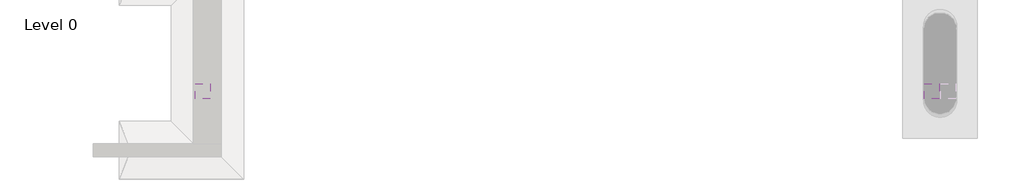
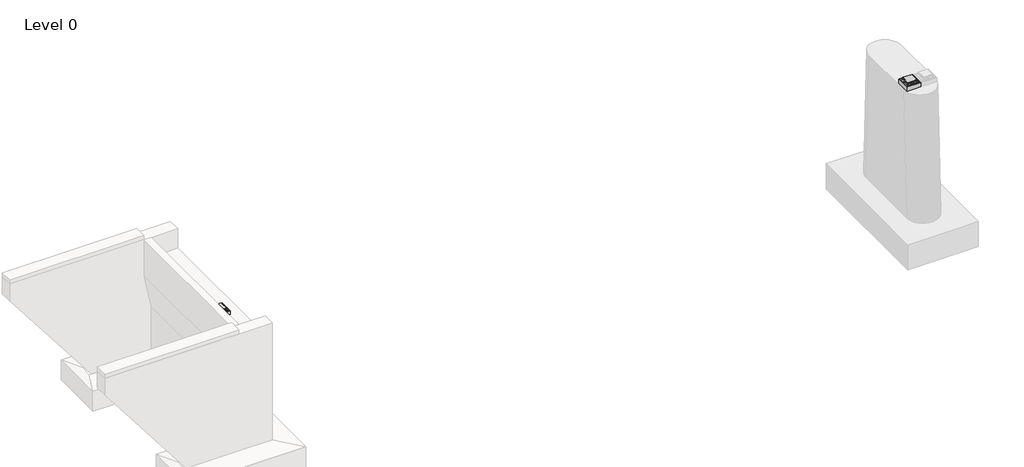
# One storey, part 1 of 4: 2 proxies.
"""IFC4 building model written with IfcOpenShell, lengths in millimetres."""

import ifcopenshell
import ifcopenshell.guid

model = None  # the IFC model being written
_history = None  # IfcOwnerHistory: only IFC2X3 demands one
_inside = {}  # id of a spatial element -> (the spatial element, [elements in it])
_under = {}  # id of a project, library or spatial element -> (it, [spatial elements below it])
_declared = {}  # id of a project -> (the project, [libraries it declares])
_typed = {}  # id of a type object -> (the type object, [elements of that type])
_made_of = {}  # id of a material, layer set ... -> (it, [elements and type objects made of it])


def new_model(schema):
    """Start an empty IFC model of exactly this schema.

    Asked for "IFC4X3", IfcOpenShell would pick the latest addendum, in which some entities
    have other attributes; the version numbers below select the first issue.
    IFC2X3 requires an IfcOwnerHistory on every rooted entity: one is made here for all.
    """
    global model, _history
    if schema == "IFC4X3":
        model = ifcopenshell.file(schema_version=(4, 3, 0, 0))
    else:
        model = ifcopenshell.file(schema=schema)
    _inside.clear()
    _under.clear()
    _declared.clear()
    _typed.clear()
    _made_of.clear()
    _history = None
    if model.schema == "IFC2X3":
        org = make("IfcOrganization", Name="unknown")
        user = make(
            "IfcPersonAndOrganization",
            ThePerson=make("IfcPerson", FamilyName="unknown"),
            TheOrganization=org,
        )
        app = make(
            "IfcApplication",
            ApplicationDeveloper=org,
            Version="unknown",
            ApplicationFullName="unknown",
            ApplicationIdentifier="unknown",
        )
        _history = make(
            "IfcOwnerHistory",
            OwningUser=user,
            OwningApplication=app,
            ChangeAction="ADDED",
            CreationDate=0,
        )
    return model


def make(cls, **values):
    """One entity of the class cls with the attributes given. An attribute that is None is left unset."""
    return model.create_entity(
        cls, **{name: value for name, value in values.items() if value is not None}
    )


def rooted(cls, **values):
    """An entity with a GlobalId (a new one), such as an element, a storey or a relation."""
    return make(cls, GlobalId=ifcopenshell.guid.new(), OwnerHistory=_history, **values)


def si_unit(unit_type, name, prefix=None):
    """IfcSIUnit, for example si_unit("LENGTHUNIT", "METRE", prefix="MILLI")."""
    return make("IfcSIUnit", UnitType=unit_type, Prefix=prefix, Name=name)


def assignment(units):
    """IfcUnitAssignment: the units of a project."""
    return None if units is None else make("IfcUnitAssignment", Units=units)


def point(xyz):
    """IfcCartesianPoint."""
    return None if xyz is None else make("IfcCartesianPoint", Coordinates=xyz)


def direction(xyz):
    """IfcDirection."""
    return None if xyz is None else make("IfcDirection", DirectionRatios=xyz)


def frame(location, z_axis=None, x_axis=None):
    """IfcAxis2Placement3D, a coordinate frame: its origin and axes. An axis left out is left unset."""
    return make(
        "IfcAxis2Placement3D",
        Location=point(location),
        Axis=direction(z_axis),
        RefDirection=direction(x_axis),
    )


def frame_2d(location, x_axis=None):
    """IfcAxis2Placement2D, a coordinate frame in the plane: its origin and x axis."""
    return make(
        "IfcAxis2Placement2D", Location=point(location), RefDirection=direction(x_axis)
    )


def origin():
    """The frame at (0, 0, 0) with its axes left unset."""
    return frame((0.0, 0.0, 0.0))


def place(relative_to, where):
    """IfcLocalPlacement: puts the frame where relative to a parent placement (None: the world)."""
    return make(
        "IfcLocalPlacement", PlacementRelTo=relative_to, RelativePlacement=where
    )


def context(
    kind, dimensions, precision=None, world=None, true_north=None, identifier=None
):
    """IfcGeometricRepresentationContext, for example the 3D "Model" context."""
    return make(
        "IfcGeometricRepresentationContext",
        ContextIdentifier=identifier,
        ContextType=kind,
        CoordinateSpaceDimension=dimensions,
        Precision=precision,
        WorldCoordinateSystem=world,
        TrueNorth=true_north,
    )


def project(units=None, contexts=None):
    """IfcProject with its units and contexts."""
    return rooted(
        "IfcProject",
        Name="project",
        RepresentationContexts=contexts,
        UnitsInContext=assignment(units),
    )


def spatial(cls, under=None, at=None, **own):
    """A site, building, storey or space (cls), placed at a placement, below another one or the project."""
    s = rooted(cls, ObjectPlacement=at, **own)
    if under is not None:
        _under.setdefault(under.id(), (under, []))[1].append(s)
    return s


def polyline(points):
    """IfcPolyline through the points."""
    return make("IfcPolyline", Points=[point(p) for p in points])


def circle_curve(where, radius):
    """IfcCircle in the frame where."""
    return make("IfcCircle", Position=where, Radius=radius)


def ellipse_curve(where, semi_axis1, semi_axis2):
    """IfcEllipse in the frame where."""
    return make(
        "IfcEllipse", Position=where, SemiAxis1=semi_axis1, SemiAxis2=semi_axis2
    )


def trimmed(basis, trim1, trim2, sense, master):
    """IfcTrimmedCurve: the piece of a basis curve between two trims."""
    return make(
        "IfcTrimmedCurve",
        BasisCurve=basis,
        Trim1=trim1,
        Trim2=trim2,
        SenseAgreement=sense,
        MasterRepresentation=master,
    )


def segment(curve, same_sense, transition):
    """IfcCompositeCurveSegment."""
    return make(
        "IfcCompositeCurveSegment",
        Transition=transition,
        SameSense=same_sense,
        ParentCurve=curve,
    )


def composite_curve(segments, self_intersect=None):
    """IfcCompositeCurve: segments joined end to end."""
    return make("IfcCompositeCurve", Segments=segments, SelfIntersect=self_intersect)


def outline(outer, holes=None, kind="AREA"):
    """IfcArbitraryClosedProfileDef: a profile drawn as a closed curve; with holes, ...WithVoids."""
    if holes is None:
        return make("IfcArbitraryClosedProfileDef", ProfileType=kind, OuterCurve=outer)
    return make(
        "IfcArbitraryProfileDefWithVoids",
        ProfileType=kind,
        OuterCurve=outer,
        InnerCurves=holes,
    )


def extrude(swept, where, along, depth):
    """IfcExtrudedAreaSolid: the profile swept, set in the frame where, extruded along a direction by depth."""
    return make(
        "IfcExtrudedAreaSolid",
        SweptArea=swept,
        Position=where,
        ExtrudedDirection=direction(along),
        Depth=depth,
    )


def shape(context_of_items, identifier, shape_type, items):
    """IfcShapeRepresentation: the items that make up one representation, for example the "Body"."""
    return make(
        "IfcShapeRepresentation",
        ContextOfItems=context_of_items,
        RepresentationIdentifier=identifier,
        RepresentationType=shape_type,
        Items=items,
    )


def made_of(thing, what):
    """Note that an element or type object is made of a material, layer set ...; save() writes the relation."""
    if what is not None:
        _made_of.setdefault(what.id(), (what, []))[1].append(thing)
    return thing


def element(
    cls,
    number,
    at=None,
    inside=None,
    cuts=None,
    type_object=None,
    material=None,
    context=None,
    identifier="Body",
    shape_type=None,
    held_by="IfcProductDefinitionShape",
    body=None,
    shapes=None,
    **own,
):
    """One element of the class cls, such as IfcWall. Its Tag is "e" and its number.

    at: its placement. inside: the storey or other place that contains it. cuts: it is an
    opening in that element (IfcRelVoidsElement). A single representation is given by context,
    identifier, shape_type and body (its items); several are given by shapes. held_by: the class
    of the entity that holds the representations. save() writes the other relations.
    """
    e = rooted(cls, Tag="e%d" % number, ObjectPlacement=at, **own)
    if body is not None:
        shapes = [shape(context, identifier, shape_type, body)]
    if shapes is not None:
        e.Representation = make(held_by, Representations=shapes)
    if inside is not None:
        _inside.setdefault(inside.id(), (inside, []))[1].append(e)
    if cuts is not None:
        rooted(
            "IfcRelVoidsElement", RelatingBuildingElement=cuts, RelatedOpeningElement=e
        )
    if type_object is not None:
        _typed.setdefault(type_object.id(), (type_object, []))[1].append(e)
    return made_of(e, material)


def aggregate(whole, parts):
    """IfcRelAggregates: a whole, such as a stair, and the parts it consists of."""
    return rooted("IfcRelAggregates", RelatingObject=whole, RelatedObjects=parts)


def save(model, path):
    """Write the relations noted so far, then the file.

    IfcRelAggregates (storeys below a building ...), IfcRelContainedInSpatialStructure (elements
    in a storey), IfcRelDefinesByType, IfcRelAssociatesMaterial and IfcRelDeclares: one each for
    every whole, place, type object, material and project.
    """
    for whole, parts in _under.values():
        aggregate(whole, parts)
    for where, things in _inside.values():
        rooted(
            "IfcRelContainedInSpatialStructure",
            RelatedElements=things,
            RelatingStructure=where,
        )
    for kind, things in _typed.values():
        rooted("IfcRelDefinesByType", RelatedObjects=things, RelatingType=kind)
    for what, things in _made_of.values():
        rooted("IfcRelAssociatesMaterial", RelatedObjects=things, RelatingMaterial=what)
    for by, libraries in _declared.values():
        rooted("IfcRelDeclares", RelatingContext=by, RelatedDefinitions=libraries)
    model.write(path)


def plane_surface(at):
    """IfcPlane: the flat surface through the origin of the frame at, square to its z axis."""
    return make("IfcPlane", Position=at)


def cylinder_surface(at, radius):
    """IfcCylindricalSurface: all points at the distance radius from the z axis of the frame at."""
    return make("IfcCylindricalSurface", Position=at, Radius=radius)


def revolved_surface(curve, axis_point, axis_direction):
    """IfcSurfaceOfRevolution: the curve turned about the line through axis_point along axis_direction."""
    return make(
        "IfcSurfaceOfRevolution",
        SweptCurve=make("IfcArbitraryOpenProfileDef", ProfileType="CURVE", Curve=curve),
        AxisPosition=make("IfcAxis1Placement", Location=point(axis_point), Axis=direction(axis_direction)),
    )


def advanced_brep(points, edges, surfaces, faces):
    """IfcAdvancedBrep: a solid bounded by faces that lie on surfaces and meet in shared edges.

    An edge is (start, end): straight between two places in points (the first is 0);
    or (start, end, curve); or (start, end, curve, False) where it runs against its curve.
    A face is (place in surfaces, loops), or (place, loops, False) where it looks against
    its surface's normal. A loop lists edges by number (the first is 1), with a minus sign
    where the edge is run from its end to its start. The first loop is the outer one.
    """
    corners = [point(p) for p in points]
    vertices = [make("IfcVertexPoint", VertexGeometry=c) for c in corners]
    made = []
    for start, end, *more in edges:
        made.append(
            make(
                "IfcEdgeCurve",
                EdgeStart=vertices[start],
                EdgeEnd=vertices[end],
                EdgeGeometry=more[0] if more else make("IfcPolyline", Points=[corners[start], corners[end]]),
                SameSense=more[1] if len(more) > 1 else True,
            )
        )
    hull = []
    for where, loops, *sense in faces:
        bounds = []
        for j, loop in enumerate(loops):
            ring = [make("IfcOrientedEdge", EdgeElement=made[abs(k) - 1], Orientation=k > 0) for k in loop]
            bounds.append(
                make(
                    "IfcFaceOuterBound" if j == 0 else "IfcFaceBound",
                    Bound=make("IfcEdgeLoop", EdgeList=ring),
                    Orientation=True,
                )
            )
        hull.append(make("IfcAdvancedFace", Bounds=bounds, FaceSurface=surfaces[where], SameSense=sense[0] if sense else True))
    return make("IfcAdvancedBrep", Outer=make("IfcClosedShell", CfsFaces=hull))


model = new_model("IFC4")

# Units and contexts
model_context = context("Model", 3, world=origin())
ifc_project = project(units=[si_unit("LENGTHUNIT", "METRE", prefix="MILLI")], contexts=[model_context])

# Site, building, storey
site = spatial("IfcSite", under=ifc_project)
building = spatial("IfcBuilding", under=site)
storey = spatial("IfcBuildingStorey", under=building, Name="Level 0", Elevation=0.0)

# Proxies
placement = place(None, origin())
element("IfcBuildingElementProxy", 1, Name="SOFiSTiK_Lager : SOFiSTiK_Lager", ObjectType="SOFiSTiK_Lager : SOFiSTiK_Lager", at=placement, inside=storey, context=model_context, shape_type="SolidModel", body=[
    extrude(outline(polyline([(49905.0, -1150.0), (49905.0, -1850.0), (49205.0, -1850.0), (49205.0, -1150.0), (49905.0, -1150.0)])), frame((0.0, 0.0, 4650.0), z_axis=(0.0, 0.0, 1.0), x_axis=(1.0, 0.0, 0.0)), (0.0, 0.0, 1.0), 40.0),
    extrude(outline(composite_curve([segment(trimmed(circle_curve(frame_2d((49555.0, -1500.0)), 300.0), [point((49255.0, -1500.0))], [point((49855.0, -1500.0))], False, "CARTESIAN"), True, "CONTINUOUS"), segment(trimmed(circle_curve(frame_2d((49555.0, -1500.0)), 300.0), [point((49855.0, -1500.0))], [point((49255.0, -1500.0))], False, "CARTESIAN"), True, "CONTINUOUS")], self_intersect=False)), frame((0.0, 0.0, 4690.0), z_axis=(0.0, 0.0, 1.0), x_axis=(1.0, 0.0, 0.0)), (0.0, 0.0, 1.0), 55.0),
    extrude(outline(composite_curve([segment(trimmed(circle_curve(frame_2d((49730.0, -1675.0)), 20.0), [point((49750.0, -1675.0))], [point((49710.0, -1675.0))], False, "CARTESIAN"), True, "CONTINUOUS"), segment(trimmed(circle_curve(frame_2d((49730.0, -1675.0)), 20.0), [point((49710.0, -1675.0))], [point((49750.0, -1675.0))], False, "CARTESIAN"), True, "CONTINUOUS")], self_intersect=False)), frame((0.0, 0.0, 4400.0), z_axis=(0.0, 0.0, 1.0), x_axis=(1.0, 0.0, 0.0)), (0.0, 0.0, 1.0), 250.0),
    extrude(outline(composite_curve([segment(trimmed(circle_curve(frame_2d((49730.0, -1325.0)), 20.0), [point((49750.0, -1325.0))], [point((49710.0, -1325.0))], False, "CARTESIAN"), True, "CONTINUOUS"), segment(trimmed(circle_curve(frame_2d((49730.0, -1325.0)), 20.0), [point((49710.0, -1325.0))], [point((49750.0, -1325.0))], False, "CARTESIAN"), True, "CONTINUOUS")], self_intersect=False)), frame((0.0, 0.0, 4400.0), z_axis=(0.0, 0.0, 1.0), x_axis=(1.0, 0.0, 0.0)), (0.0, 0.0, 1.0), 250.0),
    extrude(outline(composite_curve([segment(trimmed(circle_curve(frame_2d((49380.0, -1325.0)), 20.0), [point((49360.0, -1325.0))], [point((49400.0, -1325.0))], False, "CARTESIAN"), True, "CONTINUOUS"), segment(trimmed(circle_curve(frame_2d((49380.0, -1325.0)), 20.0), [point((49400.0, -1325.0))], [point((49360.0, -1325.0))], False, "CARTESIAN"), True, "CONTINUOUS")], self_intersect=False)), frame((0.0, 0.0, 4400.0), z_axis=(0.0, 0.0, 1.0), x_axis=(1.0, 0.0, 0.0)), (0.0, 0.0, 1.0), 250.0),
    extrude(outline(composite_curve([segment(trimmed(circle_curve(frame_2d((49380.0, -1675.0)), 20.0), [point((49360.0, -1675.0))], [point((49400.0, -1675.0))], False, "CARTESIAN"), True, "CONTINUOUS"), segment(trimmed(circle_curve(frame_2d((49380.0, -1675.0)), 20.0), [point((49400.0, -1675.0))], [point((49360.0, -1675.0))], False, "CARTESIAN"), True, "CONTINUOUS")], self_intersect=False)), frame((0.0, 0.0, 4400.0), z_axis=(0.0, 0.0, 1.0), x_axis=(1.0, 0.0, 0.0)), (0.0, 0.0, 1.0), 250.0),
    advanced_brep(
    [(49795.0, -1500.0, 4755.0), (49315.0, -1500.0, 4755.0), (49315.0, -1500.0, 4780.0), (49795.0, -1500.0, 4780.0), (49555.0, -1500.0, 4780.0), (49555.0, -1500.0, 4730.0)],
    [
        (0, 1, circle_curve(frame((49555.0, -1500.0, 4755.0), z_axis=(0.0, 0.0, 1.0), x_axis=(-1.0, 0.0, 0.0)), 240.0)),
        (1, 2),
        (2, 3, circle_curve(frame((49555.0, -1500.0, 4780.0), z_axis=(0.0, 0.0, -1.0), x_axis=(-1.0, 0.0, 0.0)), 240.0)),
        (3, 0),
        (1, 0, circle_curve(frame((49555.0, -1500.0, 4755.0), z_axis=(0.0, 0.0, 1.0), x_axis=(-1.0, 0.0, 0.0)), 240.0)),
        (3, 2, circle_curve(frame((49555.0, -1500.0, 4780.0), z_axis=(0.0, 0.0, -1.0), x_axis=(-1.0, 0.0, 0.0)), 240.0)),
        (2, 4),
        (4, 3),
        (5, 1, circle_curve(frame((49555.0, -1500.0, 5894.5), z_axis=(0.0, 1.0, 0.0), x_axis=(1.0, 0.0, 0.0)), 1164.5)),
        (0, 5, circle_curve(frame((49555.0, -1500.0, 5894.5), z_axis=(0.0, 1.0, 0.0), x_axis=(-1.0, 0.0, 0.0)), 1164.5)),
    ],
    [
        cylinder_surface(frame((49555.0, -1500.0, 4780.0), z_axis=(0.0, 0.0, -1.0), x_axis=(-1.0, 0.0, 0.0)), 240.0),
        plane_surface(frame((49555.0, -1500.0, 4780.0), z_axis=(0.0, 0.0, 1.0), x_axis=(-1.0, 0.0, 0.0))),
        revolved_surface(trimmed(ellipse_curve(frame((49555.0, -1500.0, 5894.5), z_axis=(0.0, -1.0, 0.0), x_axis=(1.0, 0.0, 0.0)), 1164.5, 1164.5), [point((49315.0, -1500.0, 4755.0))], [point((49555.0, -1500.0, 4730.0))], True, "CARTESIAN"), (49555.0, -1500.0, 4780.0), (0.0, 0.0, -1.0)),
    ],
    [
        (0, [[1, 2, 3, 4]]),
        (0, [[5, -4, 6, -2]]),
        (1, [[-3, 7, 8]]),
        (1, [[-6, -8, -7]]),
        (2, [[9, -1, 10]]),
        (2, [[-10, -5, -9]]),
    ],
),
    extrude(outline(polyline([(49805.0, -1250.0), (49805.0, -1750.0), (49305.0, -1750.0), (49305.0, -1250.0), (49805.0, -1250.0)])), frame((0.0, 0.0, 4780.0), z_axis=(0.0, 0.0, 1.0), x_axis=(1.0, 0.0, 0.0)), (0.0, 0.0, 1.0), 19.9748132),
    extrude(outline(composite_curve([segment(trimmed(circle_curve(frame_2d((49555.0, -1500.0)), 300.0), [point((49740.9346744, -1735.4321491))], [point((49790.4321491, -1685.9346744))], True, "CARTESIAN"), True, "CONTINUOUS"), segment(polyline([(49790.4321491, -1685.9346744), (49843.4651577, -1738.967683)]), True, "CONTINUOUS"), segment(trimmed(circle_curve(frame_2d((49818.7164204, -1763.7164204)), 35.0), [point((49843.4651577, -1738.967683))], [point((49793.967683, -1788.4651577))], False, "CARTESIAN"), True, "CONTINUOUS"), segment(polyline([(49793.967683, -1788.4651577), (49740.9346744, -1735.4321491)]), True, "CONTINUOUS")], self_intersect=False)), frame((0.0, 0.0, 4690.0), z_axis=(0.0, 0.0, 1.0), x_axis=(1.0, 0.0, 0.0)), (0.0, 0.0, 1.0), 25.0),
    extrude(outline(composite_curve([segment(trimmed(circle_curve(frame_2d((49555.0, -1500.0)), 300.0), [point((49369.0653256, -1264.5678509))], [point((49319.5678509, -1314.0653256))], True, "CARTESIAN"), True, "CONTINUOUS"), segment(polyline([(49319.5678509, -1314.0653256), (49266.5348423, -1261.032317)]), True, "CONTINUOUS"), segment(trimmed(circle_curve(frame_2d((49291.2835796, -1236.2835796)), 35.0), [point((49266.5348423, -1261.032317))], [point((49316.032317, -1211.5348423))], False, "CARTESIAN"), True, "CONTINUOUS"), segment(polyline([(49316.032317, -1211.5348423), (49369.0653256, -1264.5678509)]), True, "CONTINUOUS")], self_intersect=False)), frame((0.0, 0.0, 4690.0), z_axis=(0.0, 0.0, 1.0), x_axis=(1.0, 0.0, 0.0)), (0.0, 0.0, 1.0), 25.0),
    extrude(outline(composite_curve([segment(polyline([(49740.9346744, -1264.5678509), (49793.967683, -1211.5348423)]), True, "CONTINUOUS"), segment(trimmed(circle_curve(frame_2d((49818.7164204, -1236.2835796)), 35.0), [point((49793.967683, -1211.5348423))], [point((49843.4651577, -1261.032317))], False, "CARTESIAN"), True, "CONTINUOUS"), segment(polyline([(49843.4651577, -1261.032317), (49790.4321491, -1314.0653256)]), True, "CONTINUOUS"), segment(trimmed(circle_curve(frame_2d((49555.0, -1500.0)), 300.0), [point((49790.4321491, -1314.0653256))], [point((49740.9346744, -1264.5678509))], True, "CARTESIAN"), True, "CONTINUOUS")], self_intersect=False)), frame((0.0, 0.0, 4690.0), z_axis=(0.0, 0.0, 1.0), x_axis=(1.0, 0.0, 0.0)), (0.0, 0.0, 1.0), 25.0),
    extrude(outline(composite_curve([segment(polyline([(49369.0653256, -1735.4321491), (49316.032317, -1788.4651577)]), True, "CONTINUOUS"), segment(trimmed(circle_curve(frame_2d((49291.2835796, -1763.7164204)), 35.0), [point((49316.032317, -1788.4651577))], [point((49266.5348423, -1738.967683))], False, "CARTESIAN"), True, "CONTINUOUS"), segment(polyline([(49266.5348423, -1738.967683), (49319.5678509, -1685.9346744)]), True, "CONTINUOUS"), segment(trimmed(circle_curve(frame_2d((49555.0, -1500.0)), 300.0), [point((49319.5678509, -1685.9346744))], [point((49369.0653256, -1735.4321491))], True, "CARTESIAN"), True, "CONTINUOUS")], self_intersect=False)), frame((0.0, 0.0, 4690.0), z_axis=(0.0, 0.0, 1.0), x_axis=(1.0, 0.0, 0.0)), (0.0, 0.0, 1.0), 25.0),
    extrude(outline(polyline([(49818.7164204, -1207.4160662), (49843.7164204, -1221.8498229), (49843.7164204, -1250.7173364), (49818.7164204, -1265.1510931), (49793.7164204, -1250.7173364), (49793.7164204, -1221.8498229), (49818.7164204, -1207.4160662)]), holes=[composite_curve([segment(trimmed(circle_curve(frame_2d((49818.7164204, -1236.2835796)), 15.0), [point((49833.7164204, -1236.2835796))], [point((49803.7164204, -1236.2835796))], True, "CARTESIAN"), True, "CONTINUOUS"), segment(trimmed(circle_curve(frame_2d((49818.7164204, -1236.2835796)), 15.0), [point((49803.7164204, -1236.2835796))], [point((49833.7164204, -1236.2835796))], True, "CARTESIAN"), True, "CONTINUOUS")], self_intersect=False)]), frame((0.0, 0.0, 4715.0), z_axis=(0.0, 0.0, 1.0), x_axis=(1.0, 0.0, 0.0)), (0.0, 0.0, 1.0), 10.0),
    extrude(outline(polyline([(49291.2835796, -1792.5839338), (49266.2835796, -1778.1501771), (49266.2835796, -1749.2826636), (49291.2835796, -1734.8489069), (49316.2835796, -1749.2826636), (49316.2835796, -1778.1501771), (49291.2835796, -1792.5839338)]), holes=[composite_curve([segment(trimmed(circle_curve(frame_2d((49291.2835796, -1763.7164204)), 15.0), [point((49276.2835796, -1763.7164204))], [point((49306.2835796, -1763.7164204))], True, "CARTESIAN"), True, "CONTINUOUS"), segment(trimmed(circle_curve(frame_2d((49291.2835796, -1763.7164204)), 15.0), [point((49306.2835796, -1763.7164204))], [point((49276.2835796, -1763.7164204))], True, "CARTESIAN"), True, "CONTINUOUS")], self_intersect=False)]), frame((0.0, 0.0, 4715.0), z_axis=(0.0, 0.0, 1.0), x_axis=(1.0, 0.0, 0.0)), (0.0, 0.0, 1.0), 10.0),
    extrude(outline(polyline([(49291.2835796, -1207.4160662), (49316.2835796, -1221.8498229), (49316.2835796, -1250.7173364), (49291.2835796, -1265.1510931), (49266.2835796, -1250.7173364), (49266.2835796, -1221.8498229), (49291.2835796, -1207.4160662)]), holes=[composite_curve([segment(trimmed(circle_curve(frame_2d((49291.2835796, -1236.2835796)), 15.0), [point((49276.2835796, -1236.2835796))], [point((49306.2835796, -1236.2835796))], True, "CARTESIAN"), True, "CONTINUOUS"), segment(trimmed(circle_curve(frame_2d((49291.2835796, -1236.2835796)), 15.0), [point((49306.2835796, -1236.2835796))], [point((49276.2835796, -1236.2835796))], True, "CARTESIAN"), True, "CONTINUOUS")], self_intersect=False)]), frame((0.0, 0.0, 4715.0), z_axis=(0.0, 0.0, 1.0), x_axis=(1.0, 0.0, 0.0)), (0.0, 0.0, 1.0), 10.0),
    extrude(outline(polyline([(49818.7164204, -1792.5839338), (49793.7164204, -1778.1501771), (49793.7164204, -1749.2826636), (49818.7164204, -1734.8489069), (49843.7164204, -1749.2826636), (49843.7164204, -1778.1501771), (49818.7164204, -1792.5839338)]), holes=[composite_curve([segment(trimmed(circle_curve(frame_2d((49818.7164204, -1763.7164204)), 15.0), [point((49833.7164204, -1763.7164204))], [point((49803.7164204, -1763.7164204))], True, "CARTESIAN"), True, "CONTINUOUS"), segment(trimmed(circle_curve(frame_2d((49818.7164204, -1763.7164204)), 15.0), [point((49803.7164204, -1763.7164204))], [point((49833.7164204, -1763.7164204))], True, "CARTESIAN"), True, "CONTINUOUS")], self_intersect=False)]), frame((0.0, 0.0, 4715.0), z_axis=(0.0, 0.0, 1.0), x_axis=(1.0, 0.0, 0.0)), (0.0, 0.0, 1.0), 10.0),
    extrude(outline(composite_curve([segment(trimmed(circle_curve(frame_2d((49818.7164204, -1763.7164204)), 15.0), [point((49833.7164204, -1763.7164204))], [point((49803.7164204, -1763.7164204))], False, "CARTESIAN"), True, "CONTINUOUS"), segment(trimmed(circle_curve(frame_2d((49818.7164204, -1763.7164204)), 15.0), [point((49803.7164204, -1763.7164204))], [point((49833.7164204, -1763.7164204))], False, "CARTESIAN"), True, "CONTINUOUS")], self_intersect=False)), frame((0.0, 0.0, 4630.0), z_axis=(0.0, 0.0, 1.0), x_axis=(1.0, 0.0, 0.0)), (0.0, 0.0, 1.0), 110.0),
    extrude(outline(composite_curve([segment(trimmed(circle_curve(frame_2d((49818.7164204, -1236.2835796)), 15.0), [point((49833.7164204, -1236.2835796))], [point((49803.7164204, -1236.2835796))], False, "CARTESIAN"), True, "CONTINUOUS"), segment(trimmed(circle_curve(frame_2d((49818.7164204, -1236.2835796)), 15.0), [point((49803.7164204, -1236.2835796))], [point((49833.7164204, -1236.2835796))], False, "CARTESIAN"), True, "CONTINUOUS")], self_intersect=False)), frame((0.0, 0.0, 4630.0), z_axis=(0.0, 0.0, 1.0), x_axis=(1.0, 0.0, 0.0)), (0.0, 0.0, 1.0), 110.0),
    extrude(outline(composite_curve([segment(trimmed(circle_curve(frame_2d((49291.2835796, -1236.2835796)), 15.0), [point((49276.2835796, -1236.2835796))], [point((49306.2835796, -1236.2835796))], False, "CARTESIAN"), True, "CONTINUOUS"), segment(trimmed(circle_curve(frame_2d((49291.2835796, -1236.2835796)), 15.0), [point((49306.2835796, -1236.2835796))], [point((49276.2835796, -1236.2835796))], False, "CARTESIAN"), True, "CONTINUOUS")], self_intersect=False)), frame((0.0, 0.0, 4630.0), z_axis=(0.0, 0.0, 1.0), x_axis=(1.0, 0.0, 0.0)), (0.0, 0.0, 1.0), 110.0),
    extrude(outline(composite_curve([segment(trimmed(circle_curve(frame_2d((49291.2835796, -1763.7164204)), 15.0), [point((49276.2835796, -1763.7164204))], [point((49306.2835796, -1763.7164204))], False, "CARTESIAN"), True, "CONTINUOUS"), segment(trimmed(circle_curve(frame_2d((49291.2835796, -1763.7164204)), 15.0), [point((49306.2835796, -1763.7164204))], [point((49276.2835796, -1763.7164204))], False, "CARTESIAN"), True, "CONTINUOUS")], self_intersect=False)), frame((0.0, 0.0, 4630.0), z_axis=(0.0, 0.0, 1.0), x_axis=(1.0, 0.0, 0.0)), (0.0, 0.0, 1.0), 110.0),
    extrude(outline(polyline([(49955.0, -1100.0), (49955.0, -1900.0), (49155.0, -1900.0), (49155.0, -1100.0), (49955.0, -1100.0)])), frame((0.0, 0.0, 4400.0), z_axis=(0.0, 0.0, 1.0), x_axis=(1.0, 0.0, 0.0)), (0.0, 0.0, 1.0), 250.0),
])
element("IfcBuildingElementProxy", 2, Name="SOFiSTiK_Lager : SOFiSTiK_Lager", ObjectType="SOFiSTiK_Lager : SOFiSTiK_Lager", at=placement, inside=storey, context=model_context, shape_type="SolidModel", body=[
    extrude(outline(polyline([(10850.0, -1150.0), (10850.0, -1850.0), (10150.0, -1850.0), (10150.0, -1150.0), (10850.0, -1150.0)])), frame((0.0, 0.0, 4650.0), z_axis=(0.0, 0.0, 1.0), x_axis=(1.0, 0.0, 0.0)), (0.0, 0.0, 1.0), 40.0),
    extrude(outline(composite_curve([segment(trimmed(circle_curve(frame_2d((10500.0, -1500.0)), 300.0), [point((10200.0, -1500.0))], [point((10800.0, -1500.0))], False, "CARTESIAN"), True, "CONTINUOUS"), segment(trimmed(circle_curve(frame_2d((10500.0, -1500.0)), 300.0), [point((10800.0, -1500.0))], [point((10200.0, -1500.0))], False, "CARTESIAN"), True, "CONTINUOUS")], self_intersect=False)), frame((0.0, 0.0, 4690.0), z_axis=(0.0, 0.0, 1.0), x_axis=(1.0, 0.0, 0.0)), (0.0, 0.0, 1.0), 55.0),
    advanced_brep(
    [(10695.0, -1675.0, 4650.0), (10655.0, -1675.0, 4650.0), (10695.0, -1675.0, 4431.75), (10655.0, -1675.0, 4429.75)],
    [
        (0, 1, circle_curve(frame((10675.0, -1675.0, 4650.0), z_axis=(0.0, 0.0, 1.0), x_axis=(-1.0, 0.0, 0.0)), 20.0)),
        (1, 0, circle_curve(frame((10675.0, -1675.0, 4650.0), z_axis=(0.0, 0.0, 1.0), x_axis=(-1.0, 0.0, 0.0)), 20.0)),
        (0, 2),
        (2, 3, ellipse_curve(frame((10675.0, -1675.0, 4430.75), z_axis=(-0.049937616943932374, 0.0, 0.9987523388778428), x_axis=(0.9987523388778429, 0.0, 0.04993761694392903)), 20.0249844, 20.0)),
        (3, 1),
        (3, 2, ellipse_curve(frame((10675.0, -1675.0, 4430.75), z_axis=(-0.049937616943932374, 0.0, 0.9987523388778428), x_axis=(0.9987523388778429, 0.0, 0.04993761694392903)), 20.0249844, 20.0)),
    ],
    [
        plane_surface(frame((10345.0, -1325.0, 4650.0), z_axis=(0.0, 0.0, 1.0), x_axis=(0.0, 1.0, 0.0))),
        cylinder_surface(frame((10675.0, -1675.0, 4650.0), z_axis=(0.0, 0.0, 1.0), x_axis=(-1.0, 0.0, 0.0)), 20.0),
        plane_surface(frame((10750.0, -4300.0, 4434.5), z_axis=(0.049937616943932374, 0.0, -0.9987523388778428), x_axis=(0.9987523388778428, 0.0, 0.049937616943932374))),
    ],
    [
        (0, [[1, 2]]),
        (1, [[-1, 3, 4, 5]]),
        (1, [[-2, -5, 6, -3]]),
        (2, [[-4, -6]]),
    ],
),
    advanced_brep(
    [(10345.0, -1325.0, 4650.0), (10305.0, -1325.0, 4650.0), (10305.0, -1325.0, 4412.25), (10345.0, -1325.0, 4414.25)],
    [
        (0, 1, circle_curve(frame((10325.0, -1325.0, 4650.0), z_axis=(0.0, 0.0, -1.0), x_axis=(1.0, 0.0, 0.0)), 20.0)),
        (1, 2),
        (2, 3, ellipse_curve(frame((10325.0, -1325.0, 4413.25), z_axis=(-0.049937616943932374, 0.0, 0.9987523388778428), x_axis=(0.9987523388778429, 0.0, 0.04993761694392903)), 20.0249844, 20.0)),
        (3, 0),
        (1, 0, circle_curve(frame((10325.0, -1325.0, 4650.0), z_axis=(0.0, 0.0, -1.0), x_axis=(1.0, 0.0, 0.0)), 20.0)),
        (3, 2, ellipse_curve(frame((10325.0, -1325.0, 4413.25), z_axis=(-0.049937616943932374, 0.0, 0.9987523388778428), x_axis=(0.9987523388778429, 0.0, 0.04993761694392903)), 20.0249844, 20.0)),
    ],
    [
        cylinder_surface(frame((10325.0, -1325.0, 4400.0), z_axis=(0.0, 0.0, 1.0), x_axis=(1.0, 0.0, 0.0)), 20.0),
        plane_surface(frame((10345.0, -1325.0, 4650.0), z_axis=(0.0, 0.0, 1.0), x_axis=(0.0, 1.0, 0.0))),
        plane_surface(frame((10750.0, -4300.0, 4434.5), z_axis=(0.049937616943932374, 0.0, -0.9987523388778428), x_axis=(0.9987523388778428, 0.0, 0.049937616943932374))),
    ],
    [
        (0, [[1, 2, 3, 4]]),
        (0, [[5, -4, 6, -2]]),
        (1, [[-1, -5]]),
        (2, [[-3, -6]]),
    ],
),
    advanced_brep(
    [(10655.0, -1325.0, 4650.0), (10695.0, -1325.0, 4650.0), (10695.0, -1325.0, 4431.75), (10655.0, -1325.0, 4429.75)],
    [
        (0, 1, circle_curve(frame((10675.0, -1325.0, 4650.0), z_axis=(0.0, 0.0, -1.0), x_axis=(-1.0, 0.0, 0.0)), 20.0)),
        (1, 2),
        (2, 3, ellipse_curve(frame((10675.0, -1325.0, 4430.75), z_axis=(-0.049937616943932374, 0.0, 0.9987523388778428), x_axis=(0.9987523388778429, 0.0, 0.04993761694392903)), 20.0249844, 20.0)),
        (3, 0),
        (1, 0, circle_curve(frame((10675.0, -1325.0, 4650.0), z_axis=(0.0, 0.0, -1.0), x_axis=(-1.0, 0.0, 0.0)), 20.0)),
        (3, 2, ellipse_curve(frame((10675.0, -1325.0, 4430.75), z_axis=(-0.049937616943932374, 0.0, 0.9987523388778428), x_axis=(0.9987523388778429, 0.0, 0.04993761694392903)), 20.0249844, 20.0)),
    ],
    [
        cylinder_surface(frame((10675.0, -1325.0, 4650.0), z_axis=(0.0, 0.0, 1.0), x_axis=(-1.0, 0.0, 0.0)), 20.0),
        plane_surface(frame((10345.0, -1325.0, 4650.0), z_axis=(0.0, 0.0, 1.0), x_axis=(0.0, 1.0, 0.0))),
        plane_surface(frame((10750.0, -4300.0, 4434.5), z_axis=(0.049937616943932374, 0.0, -0.9987523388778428), x_axis=(0.9987523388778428, 0.0, 0.049937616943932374))),
    ],
    [
        (0, [[1, 2, 3, 4]]),
        (0, [[5, -4, 6, -2]]),
        (1, [[-1, -5]]),
        (2, [[-3, -6]]),
    ],
),
    advanced_brep(
    [(10345.0, -1675.0, 4650.0), (10305.0, -1675.0, 4650.0), (10305.0, -1675.0, 4412.25), (10345.0, -1675.0, 4414.25)],
    [
        (0, 1, circle_curve(frame((10325.0, -1675.0, 4650.0), z_axis=(0.0, 0.0, -1.0), x_axis=(1.0, 0.0, 0.0)), 20.0)),
        (1, 2),
        (2, 3, ellipse_curve(frame((10325.0, -1675.0, 4413.25), z_axis=(-0.049937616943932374, 0.0, 0.9987523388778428), x_axis=(0.9987523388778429, 0.0, 0.04993761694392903)), 20.0249844, 20.0)),
        (3, 0),
        (1, 0, circle_curve(frame((10325.0, -1675.0, 4650.0), z_axis=(0.0, 0.0, -1.0), x_axis=(1.0, 0.0, 0.0)), 20.0)),
        (3, 2, ellipse_curve(frame((10325.0, -1675.0, 4413.25), z_axis=(-0.049937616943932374, 0.0, 0.9987523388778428), x_axis=(0.9987523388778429, 0.0, 0.04993761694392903)), 20.0249844, 20.0)),
    ],
    [
        cylinder_surface(frame((10325.0, -1675.0, 4650.0), z_axis=(0.0, 0.0, 1.0), x_axis=(1.0, 0.0, 0.0)), 20.0),
        plane_surface(frame((10345.0, -1325.0, 4650.0), z_axis=(0.0, 0.0, 1.0), x_axis=(0.0, 1.0, 0.0))),
        plane_surface(frame((10750.0, -4300.0, 4434.5), z_axis=(0.049937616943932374, 0.0, -0.9987523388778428), x_axis=(0.9987523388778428, 0.0, 0.049937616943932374))),
    ],
    [
        (0, [[1, 2, 3, 4]]),
        (0, [[5, -4, 6, -2]]),
        (1, [[-1, -5]]),
        (2, [[-3, -6]]),
    ],
),
    advanced_brep(
    [(10740.0, -1500.0, 4755.0), (10260.0, -1500.0, 4755.0), (10260.0, -1500.0, 4780.0), (10740.0, -1500.0, 4780.0), (10500.0, -1500.0, 4780.0), (10500.0, -1500.0, 4730.0)],
    [
        (0, 1, circle_curve(frame((10500.0, -1500.0, 4755.0), z_axis=(0.0, 0.0, 1.0), x_axis=(-1.0, 0.0, 0.0)), 240.0)),
        (1, 2),
        (2, 3, circle_curve(frame((10500.0, -1500.0, 4780.0), z_axis=(0.0, 0.0, -1.0), x_axis=(-1.0, 0.0, 0.0)), 240.0)),
        (3, 0),
        (1, 0, circle_curve(frame((10500.0, -1500.0, 4755.0), z_axis=(0.0, 0.0, 1.0), x_axis=(-1.0, 0.0, 0.0)), 240.0)),
        (3, 2, circle_curve(frame((10500.0, -1500.0, 4780.0), z_axis=(0.0, 0.0, -1.0), x_axis=(-1.0, 0.0, 0.0)), 240.0)),
        (2, 4),
        (4, 3),
        (0, 5, circle_curve(frame((10500.0, -1500.0, 5894.5), z_axis=(0.0, 1.0, 0.0), x_axis=(-1.0, 0.0, 0.0)), 1164.5)),
        (5, 1, circle_curve(frame((10500.0, -1500.0, 5894.5), z_axis=(0.0, 1.0, 0.0), x_axis=(1.0, 0.0, 0.0)), 1164.5)),
    ],
    [
        cylinder_surface(frame((10500.0, -1500.0, 4780.0), z_axis=(0.0, 0.0, -1.0), x_axis=(-1.0, 0.0, 0.0)), 240.0),
        plane_surface(frame((10500.0, -1500.0, 4780.0), z_axis=(0.0, 0.0, 1.0), x_axis=(-1.0, 0.0, 0.0))),
        revolved_surface(trimmed(ellipse_curve(frame((10500.0, -1500.0, 5894.5), z_axis=(0.0, -1.0, 0.0), x_axis=(1.0, 0.0, 0.0)), 1164.5, 1164.5), [point((10260.0, -1500.0, 4755.0))], [point((10500.0, -1500.0, 4730.0))], True, "CARTESIAN"), (10500.0, -1500.0, 4780.0), (0.0, 0.0, -1.0)),
    ],
    [
        (0, [[1, 2, 3, 4]]),
        (0, [[-2, 5, -4, 6]]),
        (1, [[-3, 7, 8]]),
        (1, [[-6, -8, -7]]),
        (2, [[-1, 9, 10]]),
        (2, [[-5, -10, -9]]),
    ],
),
    extrude(outline(polyline([(10750.0, -1250.0), (10750.0, -1750.0), (10250.0, -1750.0), (10250.0, -1250.0), (10750.0, -1250.0)])), frame((0.0, 0.0, 4780.0), z_axis=(0.0, 0.0, 1.0), x_axis=(1.0, 0.0, 0.0)), (0.0, 0.0, 1.0), 19.9748132),
    extrude(outline(composite_curve([segment(trimmed(circle_curve(frame_2d((10500.0, -1500.0)), 300.0), [point((10685.9346744, -1735.4321491))], [point((10735.4321491, -1685.9346744))], True, "CARTESIAN"), True, "CONTINUOUS"), segment(polyline([(10735.4321491, -1685.9346744), (10788.4651577, -1738.967683)]), True, "CONTINUOUS"), segment(trimmed(circle_curve(frame_2d((10763.7164204, -1763.7164204)), 35.0), [point((10788.4651577, -1738.967683))], [point((10738.967683, -1788.4651577))], False, "CARTESIAN"), True, "CONTINUOUS"), segment(polyline([(10738.967683, -1788.4651577), (10685.9346744, -1735.4321491)]), True, "CONTINUOUS")], self_intersect=False)), frame((0.0, 0.0, 4690.0), z_axis=(0.0, 0.0, 1.0), x_axis=(1.0, 0.0, 0.0)), (0.0, 0.0, 1.0), 25.0),
    extrude(outline(composite_curve([segment(trimmed(circle_curve(frame_2d((10500.0, -1500.0)), 300.0), [point((10314.0653256, -1264.5678509))], [point((10264.5678509, -1314.0653256))], True, "CARTESIAN"), True, "CONTINUOUS"), segment(polyline([(10264.5678509, -1314.0653256), (10211.5348423, -1261.032317)]), True, "CONTINUOUS"), segment(trimmed(circle_curve(frame_2d((10236.2835796, -1236.2835796)), 35.0), [point((10211.5348423, -1261.032317))], [point((10261.032317, -1211.5348423))], False, "CARTESIAN"), True, "CONTINUOUS"), segment(polyline([(10261.032317, -1211.5348423), (10314.0653256, -1264.5678509)]), True, "CONTINUOUS")], self_intersect=False)), frame((0.0, 0.0, 4690.0), z_axis=(0.0, 0.0, 1.0), x_axis=(1.0, 0.0, 0.0)), (0.0, 0.0, 1.0), 25.0),
    extrude(outline(composite_curve([segment(polyline([(10685.9346744, -1264.5678509), (10738.967683, -1211.5348423)]), True, "CONTINUOUS"), segment(trimmed(circle_curve(frame_2d((10763.7164204, -1236.2835796)), 35.0), [point((10738.967683, -1211.5348423))], [point((10788.4651577, -1261.032317))], False, "CARTESIAN"), True, "CONTINUOUS"), segment(polyline([(10788.4651577, -1261.032317), (10735.4321491, -1314.0653256)]), True, "CONTINUOUS"), segment(trimmed(circle_curve(frame_2d((10500.0, -1500.0)), 300.0), [point((10735.4321491, -1314.0653256))], [point((10685.9346744, -1264.5678509))], True, "CARTESIAN"), True, "CONTINUOUS")], self_intersect=False)), frame((0.0, 0.0, 4690.0), z_axis=(0.0, 0.0, 1.0), x_axis=(1.0, 0.0, 0.0)), (0.0, 0.0, 1.0), 25.0),
    extrude(outline(composite_curve([segment(polyline([(10314.0653256, -1735.4321491), (10261.032317, -1788.4651577)]), True, "CONTINUOUS"), segment(trimmed(circle_curve(frame_2d((10236.2835796, -1763.7164204)), 35.0), [point((10261.032317, -1788.4651577))], [point((10211.5348423, -1738.967683))], False, "CARTESIAN"), True, "CONTINUOUS"), segment(polyline([(10211.5348423, -1738.967683), (10264.5678509, -1685.9346744)]), True, "CONTINUOUS"), segment(trimmed(circle_curve(frame_2d((10500.0, -1500.0)), 300.0), [point((10264.5678509, -1685.9346744))], [point((10314.0653256, -1735.4321491))], True, "CARTESIAN"), True, "CONTINUOUS")], self_intersect=False)), frame((0.0, 0.0, 4690.0), z_axis=(0.0, 0.0, 1.0), x_axis=(1.0, 0.0, 0.0)), (0.0, 0.0, 1.0), 25.0),
    extrude(outline(polyline([(10763.7164204, -1207.4160662), (10788.7164204, -1221.8498229), (10788.7164204, -1250.7173364), (10763.7164204, -1265.1510931), (10738.7164204, -1250.7173364), (10738.7164204, -1221.8498229), (10763.7164204, -1207.4160662)]), holes=[composite_curve([segment(trimmed(circle_curve(frame_2d((10763.7164204, -1236.2835796)), 15.0), [point((10778.7164204, -1236.2835796))], [point((10748.7164204, -1236.2835796))], True, "CARTESIAN"), True, "CONTINUOUS"), segment(trimmed(circle_curve(frame_2d((10763.7164204, -1236.2835796)), 15.0), [point((10748.7164204, -1236.2835796))], [point((10778.7164204, -1236.2835796))], True, "CARTESIAN"), True, "CONTINUOUS")], self_intersect=False)]), frame((0.0, 0.0, 4715.0), z_axis=(0.0, 0.0, 1.0), x_axis=(1.0, 0.0, 0.0)), (0.0, 0.0, 1.0), 10.0),
    extrude(outline(polyline([(10236.2835796, -1792.5839338), (10211.2835796, -1778.1501771), (10211.2835796, -1749.2826636), (10236.2835796, -1734.8489069), (10261.2835796, -1749.2826636), (10261.2835796, -1778.1501771), (10236.2835796, -1792.5839338)]), holes=[composite_curve([segment(trimmed(circle_curve(frame_2d((10236.2835796, -1763.7164204)), 15.0), [point((10221.2835796, -1763.7164204))], [point((10251.2835796, -1763.7164204))], True, "CARTESIAN"), True, "CONTINUOUS"), segment(trimmed(circle_curve(frame_2d((10236.2835796, -1763.7164204)), 15.0), [point((10251.2835796, -1763.7164204))], [point((10221.2835796, -1763.7164204))], True, "CARTESIAN"), True, "CONTINUOUS")], self_intersect=False)]), frame((0.0, 0.0, 4715.0), z_axis=(0.0, 0.0, 1.0), x_axis=(1.0, 0.0, 0.0)), (0.0, 0.0, 1.0), 10.0),
    extrude(outline(polyline([(10236.2835796, -1207.4160662), (10261.2835796, -1221.8498229), (10261.2835796, -1250.7173364), (10236.2835796, -1265.1510931), (10211.2835796, -1250.7173364), (10211.2835796, -1221.8498229), (10236.2835796, -1207.4160662)]), holes=[composite_curve([segment(trimmed(circle_curve(frame_2d((10236.2835796, -1236.2835796)), 15.0), [point((10221.2835796, -1236.2835796))], [point((10251.2835796, -1236.2835796))], True, "CARTESIAN"), True, "CONTINUOUS"), segment(trimmed(circle_curve(frame_2d((10236.2835796, -1236.2835796)), 15.0), [point((10251.2835796, -1236.2835796))], [point((10221.2835796, -1236.2835796))], True, "CARTESIAN"), True, "CONTINUOUS")], self_intersect=False)]), frame((0.0, 0.0, 4715.0), z_axis=(0.0, 0.0, 1.0), x_axis=(1.0, 0.0, 0.0)), (0.0, 0.0, 1.0), 10.0),
    extrude(outline(polyline([(10763.7164204, -1792.5839338), (10738.7164204, -1778.1501771), (10738.7164204, -1749.2826636), (10763.7164204, -1734.8489069), (10788.7164204, -1749.2826636), (10788.7164204, -1778.1501771), (10763.7164204, -1792.5839338)]), holes=[composite_curve([segment(trimmed(circle_curve(frame_2d((10763.7164204, -1763.7164204)), 15.0), [point((10778.7164204, -1763.7164204))], [point((10748.7164204, -1763.7164204))], True, "CARTESIAN"), True, "CONTINUOUS"), segment(trimmed(circle_curve(frame_2d((10763.7164204, -1763.7164204)), 15.0), [point((10748.7164204, -1763.7164204))], [point((10778.7164204, -1763.7164204))], True, "CARTESIAN"), True, "CONTINUOUS")], self_intersect=False)]), frame((0.0, 0.0, 4715.0), z_axis=(0.0, 0.0, 1.0), x_axis=(1.0, 0.0, 0.0)), (0.0, 0.0, 1.0), 10.0),
    extrude(outline(composite_curve([segment(trimmed(circle_curve(frame_2d((10763.7164204, -1763.7164204)), 15.0), [point((10778.7164204, -1763.7164204))], [point((10748.7164204, -1763.7164204))], False, "CARTESIAN"), True, "CONTINUOUS"), segment(trimmed(circle_curve(frame_2d((10763.7164204, -1763.7164204)), 15.0), [point((10748.7164204, -1763.7164204))], [point((10778.7164204, -1763.7164204))], False, "CARTESIAN"), True, "CONTINUOUS")], self_intersect=False)), frame((0.0, 0.0, 4630.0), z_axis=(0.0, 0.0, 1.0), x_axis=(1.0, 0.0, 0.0)), (0.0, 0.0, 1.0), 110.0),
    extrude(outline(composite_curve([segment(trimmed(circle_curve(frame_2d((10763.7164204, -1236.2835796)), 15.0), [point((10778.7164204, -1236.2835796))], [point((10748.7164204, -1236.2835796))], False, "CARTESIAN"), True, "CONTINUOUS"), segment(trimmed(circle_curve(frame_2d((10763.7164204, -1236.2835796)), 15.0), [point((10748.7164204, -1236.2835796))], [point((10778.7164204, -1236.2835796))], False, "CARTESIAN"), True, "CONTINUOUS")], self_intersect=False)), frame((0.0, 0.0, 4630.0), z_axis=(0.0, 0.0, 1.0), x_axis=(1.0, 0.0, 0.0)), (0.0, 0.0, 1.0), 110.0),
    extrude(outline(composite_curve([segment(trimmed(circle_curve(frame_2d((10236.2835796, -1236.2835796)), 15.0), [point((10221.2835796, -1236.2835796))], [point((10251.2835796, -1236.2835796))], False, "CARTESIAN"), True, "CONTINUOUS"), segment(trimmed(circle_curve(frame_2d((10236.2835796, -1236.2835796)), 15.0), [point((10251.2835796, -1236.2835796))], [point((10221.2835796, -1236.2835796))], False, "CARTESIAN"), True, "CONTINUOUS")], self_intersect=False)), frame((0.0, 0.0, 4630.0), z_axis=(0.0, 0.0, 1.0), x_axis=(1.0, 0.0, 0.0)), (0.0, 0.0, 1.0), 110.0),
    extrude(outline(composite_curve([segment(trimmed(circle_curve(frame_2d((10236.2835796, -1763.7164204)), 15.0), [point((10221.2835796, -1763.7164204))], [point((10251.2835796, -1763.7164204))], False, "CARTESIAN"), True, "CONTINUOUS"), segment(trimmed(circle_curve(frame_2d((10236.2835796, -1763.7164204)), 15.0), [point((10251.2835796, -1763.7164204))], [point((10221.2835796, -1763.7164204))], False, "CARTESIAN"), True, "CONTINUOUS")], self_intersect=False)), frame((0.0, 0.0, 4630.0), z_axis=(0.0, 0.0, 1.0), x_axis=(1.0, 0.0, 0.0)), (0.0, 0.0, 1.0), 110.0),
    extrude(outline(polyline([(4650.0, 10900.0), (4650.0, 10100.0), (4402.0, 10100.0), (4442.0, 10900.0), (4650.0, 10900.0)])), frame((0.0, -1900.0, 0.0), z_axis=(0.0, 1.0, 0.0), x_axis=(0.0, 0.0, 1.0)), (0.0, 0.0, 1.0), 800.0),
])

save(model, "model.ifc")
